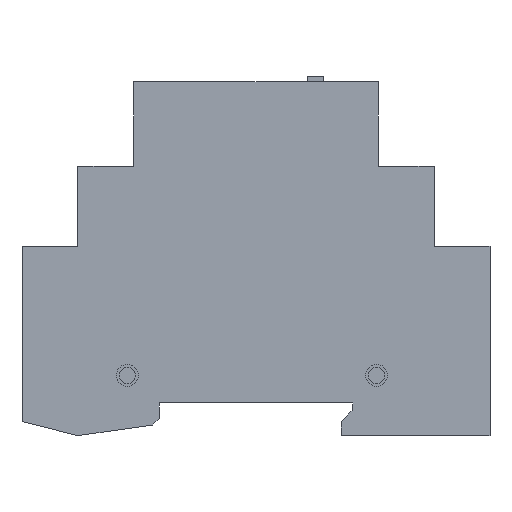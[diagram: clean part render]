
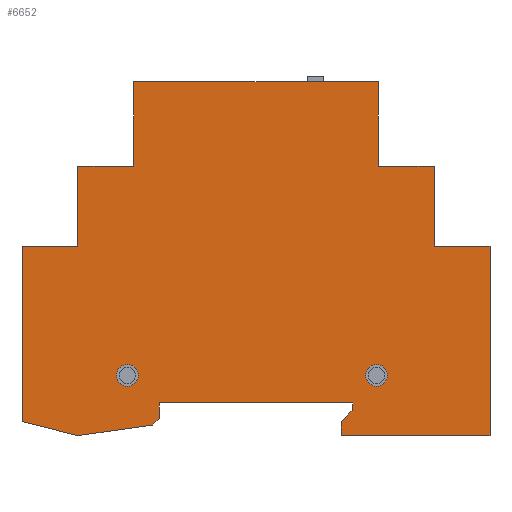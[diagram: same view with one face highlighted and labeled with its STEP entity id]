
A CAD part, left-side view. The second image highlights one B-rep face of the part: STEP entity #6652.
In plain terms, the highlighted planar face has unit normal (-1, 0, 0).
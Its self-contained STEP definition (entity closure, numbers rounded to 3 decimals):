
#241=FACE_BOUND('',#1014,.T.);
#242=FACE_BOUND('',#1015,.T.);
#345=CIRCLE('',#7091,2.);
#347=CIRCLE('',#7095,2.);
#572=FACE_OUTER_BOUND('',#1013,.T.);
#1013=EDGE_LOOP('',(#4666,#4667,#4668,#4669,#4670,#4671,#4672,#4673,#4674,
#4675,#4676,#4677,#4678,#4679,#4680,#4681,#4682,#4683,#4684,#4685,#4686));
#1014=EDGE_LOOP('',(#4687));
#1015=EDGE_LOOP('',(#4688));
#1514=LINE('',#9466,#2216);
#1517=LINE('',#9471,#2219);
#1519=LINE('',#9475,#2221);
#1521=LINE('',#9479,#2223);
#1523=LINE('',#9483,#2225);
#1525=LINE('',#9487,#2227);
#1527=LINE('',#9491,#2229);
#1529=LINE('',#9495,#2231);
#1531=LINE('',#9499,#2233);
#1533=LINE('',#9503,#2235);
#1535=LINE('',#9507,#2237);
#1537=LINE('',#9511,#2239);
#1539=LINE('',#9515,#2241);
#1541=LINE('',#9519,#2243);
#1543=LINE('',#9523,#2245);
#1545=LINE('',#9527,#2247);
#1547=LINE('',#9531,#2249);
#1549=LINE('',#9535,#2251);
#1551=LINE('',#9539,#2253);
#1553=LINE('',#9543,#2255);
#1555=LINE('',#9546,#2257);
#2216=VECTOR('',#7744,10.);
#2219=VECTOR('',#7749,10.);
#2221=VECTOR('',#7753,10.);
#2223=VECTOR('',#7757,10.);
#2225=VECTOR('',#7761,10.);
#2227=VECTOR('',#7765,10.);
#2229=VECTOR('',#7769,10.);
#2231=VECTOR('',#7773,10.);
#2233=VECTOR('',#7777,10.);
#2235=VECTOR('',#7781,10.);
#2237=VECTOR('',#7785,10.);
#2239=VECTOR('',#7789,10.);
#2241=VECTOR('',#7793,10.);
#2243=VECTOR('',#7797,10.);
#2245=VECTOR('',#7801,10.);
#2247=VECTOR('',#7805,10.);
#2249=VECTOR('',#7809,10.);
#2251=VECTOR('',#7813,10.);
#2253=VECTOR('',#7817,10.);
#2255=VECTOR('',#7821,10.);
#2257=VECTOR('',#7825,10.);
#2923=VERTEX_POINT('',#9454);
#2925=VERTEX_POINT('',#9460);
#2926=VERTEX_POINT('',#9464);
#2927=VERTEX_POINT('',#9465);
#2928=VERTEX_POINT('',#9470);
#2929=VERTEX_POINT('',#9474);
#2930=VERTEX_POINT('',#9478);
#2931=VERTEX_POINT('',#9482);
#2932=VERTEX_POINT('',#9486);
#2933=VERTEX_POINT('',#9490);
#2934=VERTEX_POINT('',#9494);
#2935=VERTEX_POINT('',#9498);
#2936=VERTEX_POINT('',#9502);
#2937=VERTEX_POINT('',#9506);
#2938=VERTEX_POINT('',#9510);
#2939=VERTEX_POINT('',#9514);
#2940=VERTEX_POINT('',#9518);
#2941=VERTEX_POINT('',#9522);
#2942=VERTEX_POINT('',#9526);
#2943=VERTEX_POINT('',#9530);
#2944=VERTEX_POINT('',#9534);
#2945=VERTEX_POINT('',#9538);
#2946=VERTEX_POINT('',#9542);
#3587=EDGE_CURVE('',#2923,#2923,#345,.T.);
#3589=EDGE_CURVE('',#2925,#2925,#347,.T.);
#3590=EDGE_CURVE('',#2926,#2927,#1514,.T.);
#3593=EDGE_CURVE('',#2928,#2926,#1517,.T.);
#3595=EDGE_CURVE('',#2929,#2928,#1519,.T.);
#3597=EDGE_CURVE('',#2930,#2929,#1521,.T.);
#3599=EDGE_CURVE('',#2931,#2930,#1523,.T.);
#3601=EDGE_CURVE('',#2932,#2931,#1525,.T.);
#3603=EDGE_CURVE('',#2933,#2932,#1527,.T.);
#3605=EDGE_CURVE('',#2934,#2933,#1529,.T.);
#3607=EDGE_CURVE('',#2935,#2934,#1531,.T.);
#3609=EDGE_CURVE('',#2936,#2935,#1533,.T.);
#3611=EDGE_CURVE('',#2937,#2936,#1535,.T.);
#3613=EDGE_CURVE('',#2938,#2937,#1537,.T.);
#3615=EDGE_CURVE('',#2939,#2938,#1539,.T.);
#3617=EDGE_CURVE('',#2940,#2939,#1541,.T.);
#3619=EDGE_CURVE('',#2941,#2940,#1543,.T.);
#3621=EDGE_CURVE('',#2942,#2941,#1545,.T.);
#3623=EDGE_CURVE('',#2943,#2942,#1547,.T.);
#3625=EDGE_CURVE('',#2944,#2943,#1549,.T.);
#3627=EDGE_CURVE('',#2945,#2944,#1551,.T.);
#3629=EDGE_CURVE('',#2946,#2945,#1553,.T.);
#3631=EDGE_CURVE('',#2927,#2946,#1555,.T.);
#4666=ORIENTED_EDGE('',*,*,#3631,.F.);
#4667=ORIENTED_EDGE('',*,*,#3590,.F.);
#4668=ORIENTED_EDGE('',*,*,#3593,.F.);
#4669=ORIENTED_EDGE('',*,*,#3595,.F.);
#4670=ORIENTED_EDGE('',*,*,#3597,.F.);
#4671=ORIENTED_EDGE('',*,*,#3599,.F.);
#4672=ORIENTED_EDGE('',*,*,#3601,.F.);
#4673=ORIENTED_EDGE('',*,*,#3603,.F.);
#4674=ORIENTED_EDGE('',*,*,#3605,.F.);
#4675=ORIENTED_EDGE('',*,*,#3607,.F.);
#4676=ORIENTED_EDGE('',*,*,#3609,.F.);
#4677=ORIENTED_EDGE('',*,*,#3611,.F.);
#4678=ORIENTED_EDGE('',*,*,#3613,.F.);
#4679=ORIENTED_EDGE('',*,*,#3615,.F.);
#4680=ORIENTED_EDGE('',*,*,#3617,.F.);
#4681=ORIENTED_EDGE('',*,*,#3619,.F.);
#4682=ORIENTED_EDGE('',*,*,#3621,.F.);
#4683=ORIENTED_EDGE('',*,*,#3623,.F.);
#4684=ORIENTED_EDGE('',*,*,#3625,.F.);
#4685=ORIENTED_EDGE('',*,*,#3627,.F.);
#4686=ORIENTED_EDGE('',*,*,#3629,.F.);
#4687=ORIENTED_EDGE('',*,*,#3587,.T.);
#4688=ORIENTED_EDGE('',*,*,#3589,.T.);
#6317=PLANE('',#7118);
#6652=ADVANCED_FACE('',(#572,#241,#242),#6317,.F.);
#7091=AXIS2_PLACEMENT_3D('',#9455,#7730,#7731);
#7095=AXIS2_PLACEMENT_3D('',#9461,#7738,#7739);
#7118=AXIS2_PLACEMENT_3D('',#9547,#7826,#7827);
#7730=DIRECTION('center_axis',(1.,0.,0.));
#7731=DIRECTION('ref_axis',(0.,0.,-1.));
#7738=DIRECTION('center_axis',(1.,0.,0.));
#7739=DIRECTION('ref_axis',(0.,0.,-1.));
#7744=DIRECTION('',(0.,0.97,0.243));
#7749=DIRECTION('',(0.,0.99,-0.138));
#7753=DIRECTION('',(0.,0.707,-0.707));
#7757=DIRECTION('',(0.,0.,-1.));
#7761=DIRECTION('',(0.,1.,0.));
#7765=DIRECTION('',(0.,0.,1.));
#7769=DIRECTION('',(0.,-1.,0.));
#7773=DIRECTION('',(0.,-0.707,0.707));
#7777=DIRECTION('',(0.,0.,1.));
#7781=DIRECTION('',(0.,1.,0.));
#7785=DIRECTION('',(0.,0.,-1.));
#7789=DIRECTION('',(0.,-1.,0.));
#7793=DIRECTION('',(0.,0.,-1.));
#7797=DIRECTION('',(0.,-1.,0.));
#7801=DIRECTION('',(0.,0.,-1.));
#7805=DIRECTION('',(0.,-1.,0.));
#7809=DIRECTION('',(0.,0.,1.));
#7813=DIRECTION('',(0.,-1.,0.));
#7817=DIRECTION('',(0.,0.,1.));
#7821=DIRECTION('',(0.,-1.,0.));
#7825=DIRECTION('',(0.,0.,1.));
#7826=DIRECTION('center_axis',(1.,0.,0.));
#7827=DIRECTION('ref_axis',(0.,0.,-1.));
#9454=CARTESIAN_POINT('',(0.,28.481,-16.033));
#9455=CARTESIAN_POINT('Origin',(0.,28.481,-18.033));
#9460=CARTESIAN_POINT('',(0.,-17.327,-16.033));
#9461=CARTESIAN_POINT('Origin',(0.,-17.327,-18.033));
#9464=CARTESIAN_POINT('',(0.,37.579,-29.095));
#9465=CARTESIAN_POINT('',(0.,47.829,-26.53));
#9466=CARTESIAN_POINT('',(0.,37.579,-29.095));
#9470=CARTESIAN_POINT('',(0.,23.84,-27.176));
#9471=CARTESIAN_POINT('',(0.,23.84,-27.176));
#9474=CARTESIAN_POINT('',(0.,22.579,-25.916));
#9475=CARTESIAN_POINT('',(0.,22.579,-25.916));
#9478=CARTESIAN_POINT('',(0.,22.579,-23.092));
#9479=CARTESIAN_POINT('',(0.,22.579,-23.092));
#9482=CARTESIAN_POINT('',(0.,-12.921,-23.092));
#9483=CARTESIAN_POINT('',(0.,-12.921,-23.092));
#9486=CARTESIAN_POINT('',(0.,-12.921,-24.527));
#9487=CARTESIAN_POINT('',(0.,-12.921,-24.527));
#9490=CARTESIAN_POINT('',(0.,-12.823,-24.527));
#9491=CARTESIAN_POINT('',(0.,-12.823,-24.527));
#9494=CARTESIAN_POINT('',(0.,-10.823,-26.527));
#9495=CARTESIAN_POINT('',(0.,-10.823,-26.527));
#9498=CARTESIAN_POINT('',(0.,-10.823,-29.095));
#9499=CARTESIAN_POINT('',(0.,-10.823,-29.095));
#9502=CARTESIAN_POINT('',(0.,-38.171,-29.095));
#9503=CARTESIAN_POINT('',(0.,-38.171,-29.095));
#9506=CARTESIAN_POINT('',(0.,-38.171,5.658));
#9507=CARTESIAN_POINT('',(0.,-38.171,5.658));
#9510=CARTESIAN_POINT('',(0.,-27.921,5.658));
#9511=CARTESIAN_POINT('',(0.,-27.921,5.658));
#9514=CARTESIAN_POINT('',(0.,-27.921,20.405));
#9515=CARTESIAN_POINT('',(0.,-27.921,20.405));
#9518=CARTESIAN_POINT('',(0.,-17.671,20.405));
#9519=CARTESIAN_POINT('',(0.,-17.671,20.405));
#9522=CARTESIAN_POINT('',(0.,-17.671,35.905));
#9523=CARTESIAN_POINT('',(0.,-17.671,35.905));
#9526=CARTESIAN_POINT('',(0.,27.329,35.905));
#9527=CARTESIAN_POINT('',(0.,27.329,35.905));
#9530=CARTESIAN_POINT('',(0.,27.329,20.405));
#9531=CARTESIAN_POINT('',(0.,27.329,20.405));
#9534=CARTESIAN_POINT('',(0.,37.579,20.405));
#9535=CARTESIAN_POINT('',(0.,37.579,20.405));
#9538=CARTESIAN_POINT('',(0.,37.579,5.658));
#9539=CARTESIAN_POINT('',(0.,37.579,5.658));
#9542=CARTESIAN_POINT('',(0.,47.829,5.658));
#9543=CARTESIAN_POINT('',(0.,47.829,5.658));
#9546=CARTESIAN_POINT('',(0.,47.829,-26.53));
#9547=CARTESIAN_POINT('Origin',(0.,4.238,0.217));
